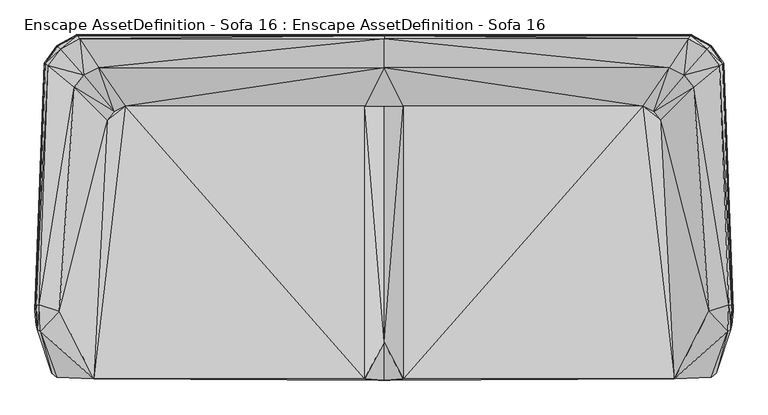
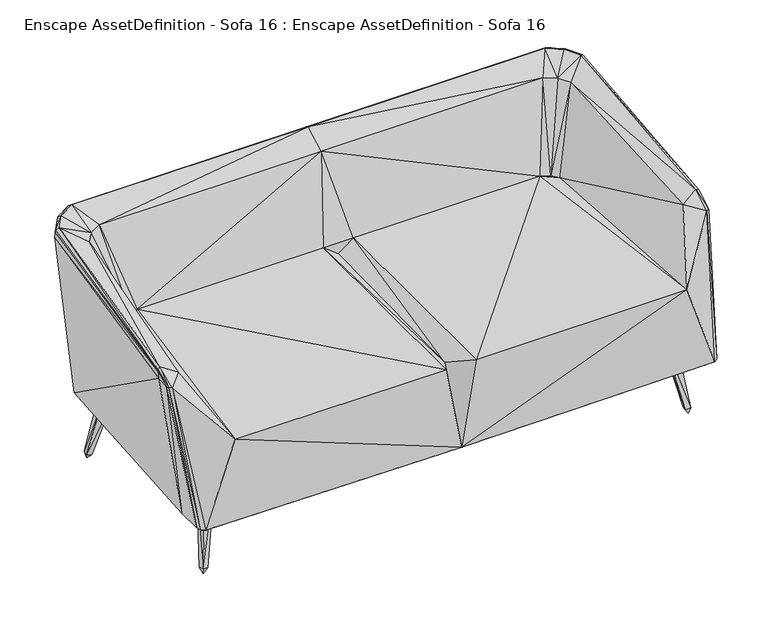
"""IFC4 building model written with IfcOpenShell, lengths in millimetres: geographic element geometry, Enscape AssetDefinition - Sofa 16 : Enscape AssetDefinition - Sofa 16."""

from ifc_helpers import new_model, si_unit, origin, place, context, project, spatial, faceted_brep, source, transform, mapped, element, save


def enscape_assetdefinition_sofa_16_enscape_assetdefinition_sofa_628b30d1(model_context):
    return source(origin(), model_context, "Body", "Brep", [
        faceted_brep([(-771.5560198, -435.5689883, 519.6059942), (-735.4909778, 253.185004, 519.6059942), (-863.3670211, -255.4750144, 686.0910058), (-717.1390057, 276.695013, 519.6059942), (-823.3540058, 340.8919871, 780.5879712), (-687.9619956, 291.3250029, 519.6059942), (-913.7579799, -308.4889948, 679.6050072), (-916.4500237, -238.7039959, 714.0089869), (-798.0099916, 373.1490076, 785.3479981), (-892.3619986, 398.1330097, 820.7920194), (-757.9110265, 393.3790028, 788.3290052), (-860.0500226, 442.2029853, 827.2010088), (-809.005022, 469.9710011, 831.2339783), (-924.6219993, -240.1449978, 708.9220285), (-900.9100199, 404.2460024, 814.4649863), (-815.1900172, 478.5949886, 825.0859976), (-867.6789999, 449.8490095, 820.9829926), (0.0, 469.9710011, 831.2339783), (0.0, 478.5949886, 825.0859976), (-816.5450096, 480.381012, 815.0680065), (0.0, 480.381012, 815.0680065), (-869.4409728, 451.3309896, 810.9970093), (-902.9319882, 405.2509964, 804.5300245), (-869.787991, 451.2169957, 793.9429879), (-816.6829944, 480.475992, 797.9220152), (0.0, 480.475992, 797.9220152), (-782.1140289, 434.5799983, 241.1050051), (-903.414011, 404.8080146, 787.6229882), (-833.3299756, 404.47101, 240.6859994), (-926.3939857, -242.9890037, 702.9550076), (-865.7619953, 356.6960096, 240.0089949), (-928.2699823, -254.3179989, 685.495019), (-829.5729756, 400.402993, 235.698998), (-861.5139723, 353.2550037, 235.0330055), (-889.6269798, -322.2109973, 224.740997), (-925.13901, -293.2099998, 678.9379716), (-922.6840138, -302.8869927, 678.4570217), (-886.5939975, -406.0589969, 223.6469984), (-881.7089796, -404.0069878, 219.1359997), (-884.6819997, -321.4809895, 220.1970071), (0.0, 97.740002, 220.8819985), (-878.7069917, -418.2040095, 218.7750041), (-883.6169839, -420.3279912, 223.2729942), (-870.1850176, -430.4080009, 222.9859978), (-862.9919887, -425.7499874, 218.5979933), (-836.8610144, -425.8590043, 218.5039967), (0.0, -438.4939969, 222.8849977), (0.0, -425.8590043, 218.5039967), (836.8610144, -425.8590043, 218.5039967), (870.1850176, -430.4080009, 222.9859978), (878.7069917, -418.2040095, 218.7750041), (862.9919887, -425.7499874, 218.5979933), (883.6169839, -420.3279912, 223.2729942), (913.7579799, -308.4889948, 679.6050072), (771.5560198, -435.5689883, 519.6059942), (881.7089796, -404.0069878, 219.1359997), (886.5939975, -406.0589969, 223.6469984), (922.6840138, -302.8869927, 678.4570217), (916.4500237, -238.7039959, 714.0089869), (863.3670211, -255.4750144, 686.0910058), (925.13901, -293.2099998, 678.9379716), (924.6219993, -240.1449978, 708.9220285), (889.6269798, -322.2109973, 224.740997), (884.6819997, -321.4809895, 220.1970071), (865.7619953, 356.6960096, 240.0089949), (928.2699823, -254.3179989, 685.495019), (861.5139723, 353.2550037, 235.0330055), (926.3939857, -242.9890037, 702.9550076), (903.414011, 404.8080146, 787.6229882), (833.3299756, 404.47101, 240.6859994), (829.5729756, 400.402993, 235.698998), (779.0449858, 430.1280081, 236.1129969), (782.1140289, 434.5799983, 241.1050051), (869.787991, 451.2169957, 793.9429879), (902.9319882, 405.2509964, 804.5300245), (900.9100199, 404.2460024, 814.4649863), (869.4409728, 451.3309896, 810.9970093), (816.6829944, 480.475992, 797.9220152), (867.6789999, 449.8490095, 820.9829926), (816.5450096, 480.381012, 815.0680065), (860.0500226, 442.2029853, 827.2010088), (892.3619986, 398.1330097, 820.7920194), (823.3540058, 340.8919871, 780.5879712), (798.0099916, 373.1490076, 785.3479981), (809.005022, 469.9710011, 831.2339783), (815.1900172, 478.5949886, 825.0859976), (757.9110265, 393.3790028, 788.3290052), (717.1390057, 276.695013, 519.6059942), (0.0, 393.3790028, 788.3290052), (687.9619956, 291.3250029, 519.6059942), (-51.3119996, 291.3250029, 519.6059942), (51.3119996, 291.3250029, 519.6059942), (0.0, 291.3250029, 480.7859957), (0.0, -338.1460011, 469.4100022), (-51.3119996, -435.5689883, 519.6059942), (51.3119996, -435.5689883, 519.6059942), (735.4909778, 253.185004, 519.6059942), (0.0, 434.5799983, 241.1050051), (-779.0449858, 430.1280081, 236.1129969), (0.0, 430.1280081, 236.1129969)], [[[0, 1, 2]], [[1, 3, 4]], [[1, 5, 3]], [[5, 1, 0]], [[2, 1, 4]], [[6, 2, 7]], [[2, 4, 7]], [[6, 0, 2]], [[4, 8, 9]], [[4, 3, 8]], [[7, 4, 9]], [[5, 10, 3]], [[3, 10, 8]], [[11, 8, 12]], [[12, 8, 10]], [[9, 8, 11]], [[7, 9, 13]], [[9, 11, 14]], [[13, 9, 14]], [[12, 15, 11]], [[11, 15, 16]], [[14, 11, 16]], [[17, 18, 12]], [[12, 18, 15]], [[10, 17, 12]], [[19, 15, 20]], [[15, 19, 16]], [[20, 15, 18]], [[16, 21, 14]], [[16, 19, 21]], [[14, 22, 13]], [[14, 21, 22]], [[23, 21, 24]], [[23, 22, 21]], [[24, 21, 19]], [[20, 25, 19]], [[19, 25, 24]], [[26, 23, 24]], [[25, 26, 24]], [[27, 22, 23]], [[23, 28, 27]], [[28, 23, 26]], [[22, 27, 29]], [[13, 22, 29]], [[27, 30, 31]], [[29, 27, 31]], [[27, 28, 30]], [[28, 26, 32]], [[28, 32, 30]], [[30, 33, 34]], [[31, 30, 34]], [[30, 32, 33]], [[35, 29, 31]], [[34, 35, 31]], [[35, 13, 29]], [[36, 13, 35]], [[36, 7, 13]], [[37, 35, 34]], [[37, 36, 35]], [[37, 34, 38]], [[34, 33, 39]], [[38, 34, 39]], [[32, 40, 33]], [[40, 39, 33]], [[38, 39, 40]], [[41, 38, 40]], [[38, 41, 37]], [[42, 36, 37]], [[37, 41, 42]], [[36, 42, 6]], [[6, 7, 36]], [[41, 43, 42]], [[6, 42, 43]], [[44, 43, 41]], [[44, 41, 45]], [[45, 41, 40]], [[45, 43, 44]], [[43, 0, 6]], [[43, 46, 0]], [[45, 46, 43]], [[47, 46, 45]], [[40, 47, 45]], [[48, 47, 40]], [[48, 46, 47]], [[49, 46, 48]], [[40, 50, 48]], [[51, 49, 48]], [[48, 50, 51]], [[50, 49, 51]], [[49, 52, 53]], [[52, 49, 50]], [[54, 49, 53]], [[54, 46, 49]], [[55, 56, 50]], [[40, 55, 50]], [[50, 56, 52]], [[53, 52, 57]], [[56, 57, 52]], [[53, 57, 58]], [[54, 53, 59]], [[58, 59, 53]], [[60, 57, 56]], [[60, 61, 57]], [[58, 57, 61]], [[56, 55, 62]], [[62, 60, 56]], [[40, 63, 55]], [[62, 55, 63]], [[62, 64, 65]], [[64, 62, 66]], [[65, 60, 62]], [[66, 62, 63]], [[67, 61, 60]], [[65, 67, 60]], [[68, 67, 65]], [[65, 64, 68]], [[64, 69, 68]], [[66, 70, 64]], [[64, 70, 69]], [[66, 40, 70]], [[66, 63, 40]], [[70, 40, 71]], [[69, 70, 72]], [[72, 70, 71]], [[69, 72, 73]], [[68, 69, 73]], [[74, 67, 68]], [[68, 73, 74]], [[74, 61, 67]], [[75, 61, 74]], [[76, 75, 74]], [[74, 73, 76]], [[77, 76, 73]], [[73, 72, 77]], [[78, 75, 76]], [[79, 76, 77]], [[79, 78, 76]], [[78, 80, 75]], [[81, 61, 75]], [[75, 80, 81]], [[58, 61, 81]], [[82, 81, 83]], [[82, 58, 81]], [[83, 81, 80]], [[84, 80, 85]], [[85, 80, 78]], [[84, 83, 80]], [[85, 78, 79]], [[79, 20, 85]], [[18, 84, 85]], [[85, 20, 18]], [[84, 17, 86]], [[17, 84, 18]], [[86, 83, 84]], [[83, 86, 87]], [[87, 82, 83]], [[88, 89, 86]], [[87, 86, 89]], [[86, 17, 88]], [[88, 17, 10]], [[5, 90, 88]], [[10, 5, 88]], [[88, 91, 89]], [[90, 91, 88]], [[92, 90, 93]], [[90, 92, 91]], [[93, 90, 94]], [[5, 94, 90]], [[0, 94, 5]], [[94, 46, 93]], [[0, 46, 94]], [[95, 91, 93]], [[95, 93, 46]], [[93, 91, 92]], [[91, 95, 89]], [[95, 46, 54]], [[89, 95, 54]], [[89, 54, 96]], [[59, 96, 54]], [[89, 96, 87]], [[82, 96, 59]], [[96, 82, 87]], [[59, 58, 82]], [[20, 79, 25]], [[25, 79, 77]], [[97, 26, 25]], [[77, 72, 25]], [[25, 72, 97]], [[26, 97, 98]], [[32, 26, 98]], [[99, 97, 71]], [[98, 97, 99]], [[71, 97, 72]], [[98, 99, 40]], [[98, 40, 32]], [[40, 99, 71]]]),
        faceted_brep([(819.5710182, 331.5460086, 15.191), (776.8170238, 268.6730027, 248.3669966), (815.9829974, 348.5980034, 18.6030008), (811.4539981, 274.646014, 254.9279928), (769.6419954, 303.0819893, 254.9209893), (836.7549777, 334.4860077, 18.5640007), (833.1670165, 351.5369892, 21.9759997), (804.2790294, 309.0550005, 261.4820004), (829.0339708, 345.5759883, 0.0)], [[[0, 1, 2]], [[1, 3, 4]], [[0, 5, 1]], [[2, 1, 4]], [[1, 5, 3]], [[2, 4, 6]], [[6, 4, 7]], [[4, 3, 7]], [[5, 6, 3]], [[3, 6, 7]], [[5, 8, 6]], [[2, 8, 0]], [[6, 8, 2]], [[0, 8, 5]]]),
        faceted_brep([(-819.5710182, -331.5460086, 15.191), (-776.8170238, -268.6730027, 248.3669966), (-815.9829974, -348.5980034, 18.6030008), (-836.7549777, -334.4860077, 18.5640007), (-811.4539981, -274.646014, 254.9279928), (-769.6419954, -303.0819893, 254.9209893), (-833.1670165, -351.5369892, 21.9759997), (-804.2790294, -309.0550005, 261.4820004), (-829.0339708, -345.5759883, 0.0)], [[[0, 1, 2]], [[0, 3, 1]], [[1, 4, 5]], [[2, 1, 5]], [[1, 3, 4]], [[2, 5, 6]], [[6, 5, 7]], [[5, 4, 7]], [[3, 6, 4]], [[4, 6, 7]], [[3, 8, 6]], [[2, 8, 0]], [[6, 8, 2]], [[0, 8, 3]]]),
        faceted_brep([(-769.6419954, 303.0819893, 254.9209893), (-776.8170238, 268.6730027, 248.3669966), (-815.9829974, 348.5980034, 18.6030008), (-811.4539981, 274.646014, 254.9279928), (-836.7549777, 334.4860077, 18.5640007), (-819.5710182, 331.5460086, 15.191), (-833.1670165, 351.5369892, 21.9759997), (-804.2790294, 309.0550005, 261.4820004), (-829.0339708, 345.5759883, 0.0)], [[[0, 1, 2]], [[3, 4, 1]], [[2, 1, 5]], [[1, 4, 5]], [[0, 3, 1]], [[2, 6, 0]], [[7, 3, 0]], [[0, 6, 7]], [[7, 6, 3]], [[3, 6, 4]], [[6, 8, 4]], [[5, 8, 2]], [[2, 8, 6]], [[4, 8, 5]]]),
        faceted_brep([(815.9829974, -348.5980034, 18.6030008), (833.1670165, -351.5369892, 21.9759997), (769.6419954, -303.0819893, 254.9209893), (804.2790294, -309.0550005, 261.4820004), (811.4539981, -274.646014, 254.9279928), (836.7549777, -334.4860077, 18.5640007), (776.8170238, -268.6730027, 248.3669966), (819.5710182, -331.5460086, 15.191), (829.0339708, -345.5759883, 0.0)], [[[0, 1, 2]], [[3, 1, 4]], [[2, 1, 3]], [[4, 1, 5]], [[3, 4, 2]], [[2, 6, 0]], [[2, 4, 6]], [[0, 6, 7]], [[4, 5, 6]], [[6, 5, 7]], [[1, 8, 5]], [[7, 8, 0]], [[0, 8, 1]], [[5, 8, 7]]]),
    ])


if __name__ == "__main__":
    model = new_model("IFC4")
    model_context = context("Model", 3, world=origin())
    ifc_project = project(units=[si_unit("LENGTHUNIT", "METRE", prefix="MILLI")], contexts=[model_context])
    site = spatial("IfcSite", under=ifc_project)
    building = spatial("IfcBuilding", under=site)
    placement = place(None, origin())
    enscape_assetdefinition_sofa_16_enscape_assetdefinition_sofa_shape = enscape_assetdefinition_sofa_16_enscape_assetdefinition_sofa_628b30d1(model_context)
    element("IfcGeographicElement", 1, ObjectType="Enscape AssetDefinition - Sofa 16 : Enscape AssetDefinition - Sofa 16", at=placement, inside=building, context=model_context, shape_type="MappedRepresentation", body=[
        mapped(enscape_assetdefinition_sofa_16_enscape_assetdefinition_sofa_shape, transform((0.0, 0.0, 0.0), x_axis=(1.0, 0.0, 0.0), y_axis=(0.0, 1.0, 0.0), z_axis=(0.0, 0.0, 1.0))),
    ])
    save(model, "model.ifc")
